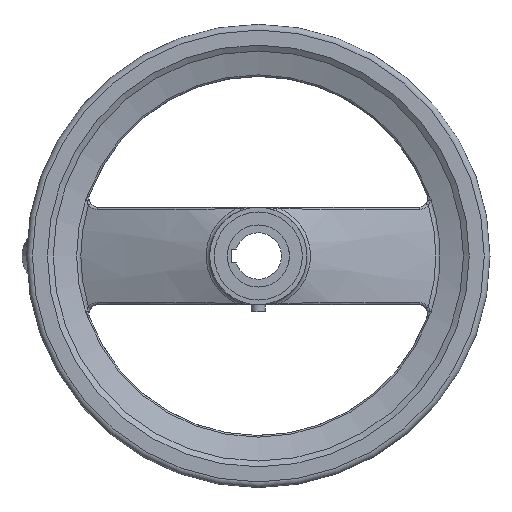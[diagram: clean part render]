
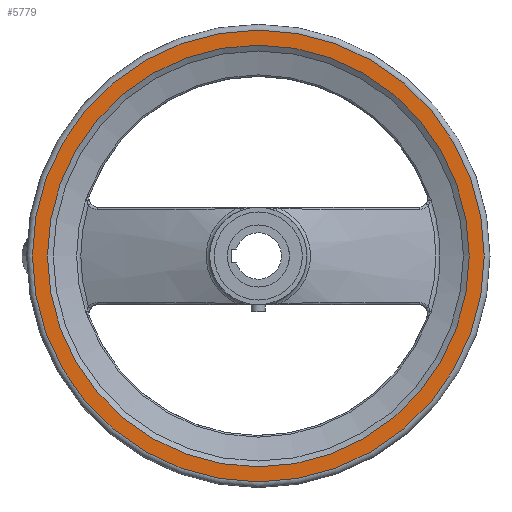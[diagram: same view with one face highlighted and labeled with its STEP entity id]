
A CAD part, left-side view. The second image highlights one B-rep face of the part: STEP entity #5779.
In plain terms, the highlighted planar face has unit normal (-1, 0, 0).
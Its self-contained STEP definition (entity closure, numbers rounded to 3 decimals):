
#220 = CARTESIAN_POINT ( 'NONE',  ( 26.74, 0., 91.014 ) ) ;
#580 = CARTESIAN_POINT ( 'NONE',  ( 26.74, 0., 0. ) ) ;
#753 = AXIS2_PLACEMENT_3D ( 'NONE', #6080, #6150, #1690 ) ;
#878 = VERTEX_POINT ( 'NONE', #220 ) ;
#892 = EDGE_LOOP ( 'NONE', ( #4747 ) ) ;
#903 = CARTESIAN_POINT ( 'NONE',  ( 26.74, 100., 0. ) ) ;
#1376 = VERTEX_POINT ( 'NONE', #2331 ) ;
#1461 = CIRCLE ( 'NONE', #4014, 91.014 ) ;
#1690 = DIRECTION ( 'NONE',  ( 0., 0., 1. ) ) ;
#2331 = CARTESIAN_POINT ( 'NONE',  ( 26.74, 0., 97.5 ) ) ;
#3022 = DIRECTION ( 'NONE',  ( -1., 0., 0. ) ) ;
#3103 = EDGE_CURVE ( 'NONE', #1376, #1376, #4765, .T. ) ;
#3254 = PLANE ( 'NONE',  #5208 ) ;
#3472 = ORIENTED_EDGE ( 'NONE', *, *, #3103, .T. ) ;
#3529 = DIRECTION ( 'NONE',  ( 0., 0., 1. ) ) ;
#4014 = AXIS2_PLACEMENT_3D ( 'NONE', #580, #3022, #3529 ) ;
#4370 = DIRECTION ( 'NONE',  ( 0., 0., 1. ) ) ;
#4401 = FACE_OUTER_BOUND ( 'NONE', #6090, .T. ) ;
#4454 = EDGE_CURVE ( 'NONE', #878, #878, #1461, .T. ) ;
#4747 = ORIENTED_EDGE ( 'NONE', *, *, #4454, .F. ) ;
#4765 = CIRCLE ( 'NONE', #753, 97.5 ) ;
#4814 = FACE_BOUND ( 'NONE', #892, .T. ) ;
#5208 = AXIS2_PLACEMENT_3D ( 'NONE', #903, #6315, #4370 ) ;
#5779 = ADVANCED_FACE ( 'NONE', ( #4401, #4814 ), #3254, .T. ) ;
#6080 = CARTESIAN_POINT ( 'NONE',  ( 26.74, 0., 0. ) ) ;
#6090 = EDGE_LOOP ( 'NONE', ( #3472 ) ) ;
#6150 = DIRECTION ( 'NONE',  ( -1., 0., 0. ) ) ;
#6315 = DIRECTION ( 'NONE',  ( -1., 0., 0. ) ) ;
